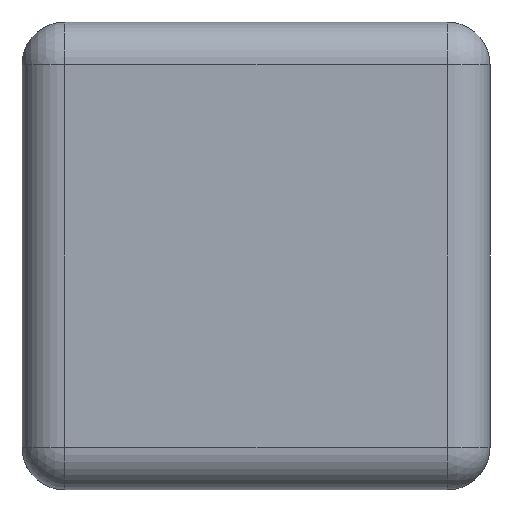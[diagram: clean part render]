
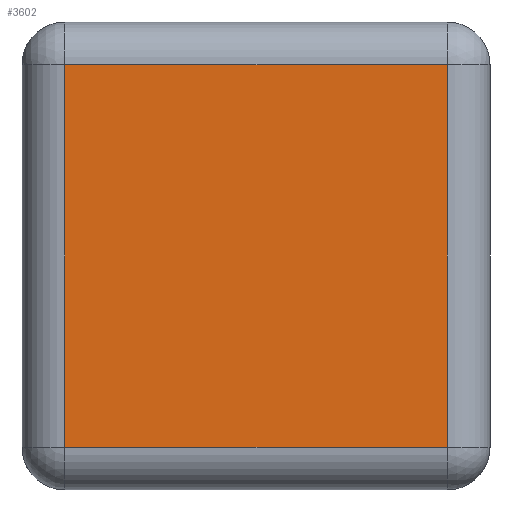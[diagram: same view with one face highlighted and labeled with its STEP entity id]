
A CAD part, left-side view. The second image highlights one B-rep face of the part: STEP entity #3602.
In plain terms, the highlighted planar face has unit normal (-1, 0, 0).
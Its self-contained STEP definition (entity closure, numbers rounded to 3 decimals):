
#397 = EDGE_CURVE ( 'NONE', #11109, #3919, #11548, .T. ) ;
#673 = CARTESIAN_POINT ( 'NONE',  ( -5., 1.35, 0. ) ) ;
#900 = EDGE_CURVE ( 'NONE', #12588, #7129, #11185, .T. ) ;
#983 = DIRECTION ( 'NONE',  ( 0., -1., 0. ) ) ;
#1000 = PLANE ( 'NONE',  #1144 ) ;
#1144 = AXIS2_PLACEMENT_3D ( 'NONE', #5829, #3806, #4987 ) ;
#1977 = VECTOR ( 'NONE', #983, 1000. ) ;
#2007 = EDGE_LOOP ( 'NONE', ( #8750, #6301, #12076, #12695 ) ) ;
#3602 = ADVANCED_FACE ( 'NONE', ( #10771 ), #1000, .T. ) ;
#3806 = DIRECTION ( 'NONE',  ( -1., 0., 0. ) ) ;
#3919 = VERTEX_POINT ( 'NONE', #10247 ) ;
#4188 = CARTESIAN_POINT ( 'NONE',  ( -5., -1.35, -1.35 ) ) ;
#4987 = DIRECTION ( 'NONE',  ( 0., 0., -1. ) ) ;
#5410 = CARTESIAN_POINT ( 'NONE',  ( -5., -1.35, 1.35 ) ) ;
#5829 = CARTESIAN_POINT ( 'NONE',  ( -5., 0., 0. ) ) ;
#5939 = LINE ( 'NONE', #12494, #1977 ) ;
#6301 = ORIENTED_EDGE ( 'NONE', *, *, #397, .T. ) ;
#6630 = DIRECTION ( 'NONE',  ( 0., 0., 1. ) ) ;
#7129 = VERTEX_POINT ( 'NONE', #5410 ) ;
#8533 = DIRECTION ( 'NONE',  ( 0., 0., -1. ) ) ;
#8750 = ORIENTED_EDGE ( 'NONE', *, *, #12583, .T. ) ;
#8948 = VECTOR ( 'NONE', #12142, 1000. ) ;
#9250 = CARTESIAN_POINT ( 'NONE',  ( -5., 0., 1.35 ) ) ;
#9354 = VECTOR ( 'NONE', #8533, 1000. ) ;
#9387 = CARTESIAN_POINT ( 'NONE',  ( -5., -1.35, 0. ) ) ;
#10097 = VECTOR ( 'NONE', #6630, 1000. ) ;
#10169 = EDGE_CURVE ( 'NONE', #3919, #12588, #5939, .T. ) ;
#10247 = CARTESIAN_POINT ( 'NONE',  ( -5., 1.35, -1.35 ) ) ;
#10771 = FACE_OUTER_BOUND ( 'NONE', #2007, .T. ) ;
#10882 = CARTESIAN_POINT ( 'NONE',  ( -5., 1.35, 1.35 ) ) ;
#11109 = VERTEX_POINT ( 'NONE', #10882 ) ;
#11185 = LINE ( 'NONE', #9387, #10097 ) ;
#11366 = LINE ( 'NONE', #9250, #8948 ) ;
#11548 = LINE ( 'NONE', #673, #9354 ) ;
#12076 = ORIENTED_EDGE ( 'NONE', *, *, #10169, .T. ) ;
#12142 = DIRECTION ( 'NONE',  ( 0., 1., 0. ) ) ;
#12494 = CARTESIAN_POINT ( 'NONE',  ( -5., 0., -1.35 ) ) ;
#12583 = EDGE_CURVE ( 'NONE', #7129, #11109, #11366, .T. ) ;
#12588 = VERTEX_POINT ( 'NONE', #4188 ) ;
#12695 = ORIENTED_EDGE ( 'NONE', *, *, #900, .T. ) ;
